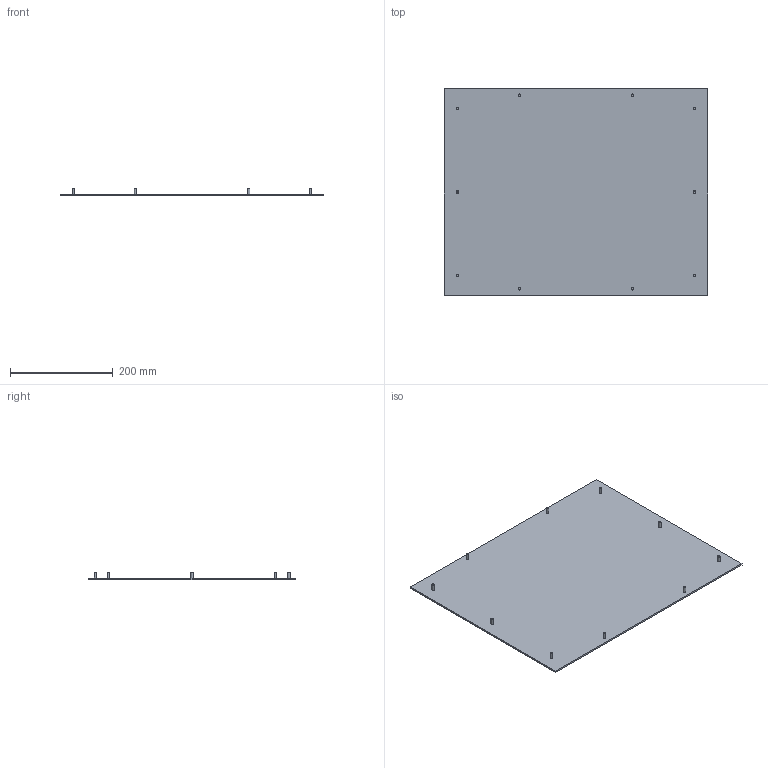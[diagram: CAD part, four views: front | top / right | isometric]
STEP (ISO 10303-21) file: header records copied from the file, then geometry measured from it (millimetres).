
FILE_DESCRIPTION((''),'2;1');
FILE_NAME('D:\scratch\ideas\wmt_plate_400x500.stp', '2006-06-22T10:38:16',('User'),('SDRC'),'I-DEAS Master Series 9','UNIX', 'Yes');
FILE_SCHEMA(('AUTOMOTIVE_DESIGN { 1 0 10303 214 0 1 1 1 }'));
Length unit declared in the file: inch
Products named in the file (3): 16234; plate_front; 87541671
Assembly tree (11 placements, depth 2):
  16234
    plate_front
    87541671  x10
Bounding box: 511.3 x 400.4 x 15 mm (x, y, z)
Volume: 652335.6 mm3; surface area: 418064.7 mm2
Topology: 11 solids, 11 shells, 56 faces, 92 edges, 58 vertices
Faces by surface type: bspline 56
Entity records: 1058 total; most frequent: CARTESIAN_POINT 477, ORIENTED_EDGE 94, EDGE_CURVE 47, DIRECTION 46, EDGE_LOOP 40, VERTEX_POINT 31, AXIS2_PLACEMENT_3D 23, PROPERTY_DEFINITION 20
